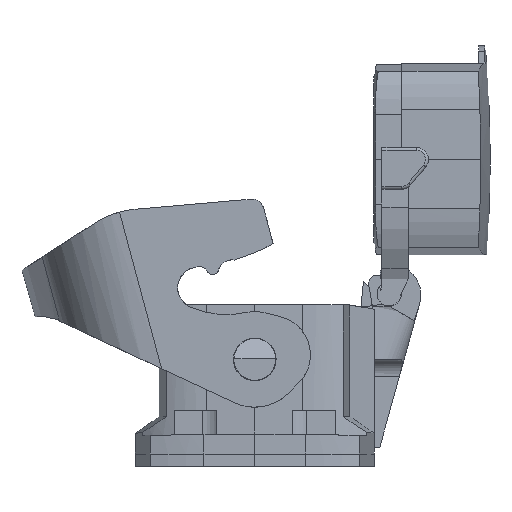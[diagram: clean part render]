
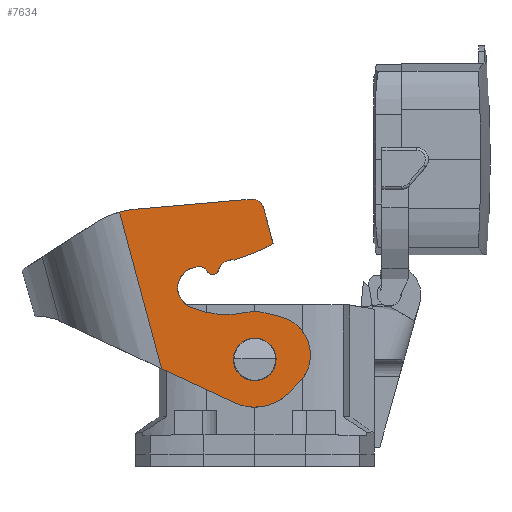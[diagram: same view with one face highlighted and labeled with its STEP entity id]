
A CAD part, left-side view. The second image highlights one B-rep face of the part: STEP entity #7634.
In plain terms, the highlighted planar face has unit normal (-1, 0.008, -0.002).
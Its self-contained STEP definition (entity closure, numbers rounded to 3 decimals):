
#5936=ELLIPSE('',#26317,6.588,6.588);
#5945=ELLIPSE('',#26334,8.,8.);
#5955=ELLIPSE('',#26360,8.,8.);
#5956=ELLIPSE('',#26361,15.001,15.);
#5957=ELLIPSE('',#26362,3.5,3.5);
#5958=ELLIPSE('',#26363,1.5,1.5);
#5959=ELLIPSE('',#26364,1.,1.);
#5960=ELLIPSE('',#26365,2.3,2.3);
#5961=ELLIPSE('',#26366,15.001,15.);
#5962=ELLIPSE('',#26367,2.,2.);
#5963=ELLIPSE('',#26368,15.001,15.);
#5964=ELLIPSE('',#26369,3.575,3.575);
#6130=FACE_BOUND('',#9793,.T.);
#6131=FACE_BOUND('',#9794,.T.);
#6738=PLANE('',#26370);
#7634=ADVANCED_FACE('',(#6130,#6131),#6738,.T.);
#9793=EDGE_LOOP('',(#18597,#18598,#18599,#18600,#18601,#18602,#18603,#18604,
#18605,#18606,#18607,#18608,#18609,#18610,#18611,#18612,#18613,#18614,#18615));
#9794=EDGE_LOOP('',(#18616));
#11643=LINE('',#37950,#13538);
#11646=LINE('',#37985,#13541);
#11647=LINE('',#37987,#13542);
#11648=LINE('',#37988,#13543);
#11649=LINE('',#37996,#13544);
#11650=LINE('',#38004,#13545);
#11651=LINE('',#38008,#13546);
#11652=LINE('',#38012,#13547);
#13538=VECTOR('',#30919,1.);
#13541=VECTOR('',#30926,1.);
#13542=VECTOR('',#30927,1.);
#13543=VECTOR('',#30928,1.);
#13544=VECTOR('',#30935,1.);
#13545=VECTOR('',#30942,1.);
#13546=VECTOR('',#30945,1.);
#13547=VECTOR('',#30948,1.);
#18597=ORIENTED_EDGE('',*,*,#23385,.T.);
#18598=ORIENTED_EDGE('',*,*,#23379,.F.);
#18599=ORIENTED_EDGE('',*,*,#23324,.F.);
#18600=ORIENTED_EDGE('',*,*,#23386,.T.);
#18601=ORIENTED_EDGE('',*,*,#23285,.T.);
#18602=ORIENTED_EDGE('',*,*,#23387,.T.);
#18603=ORIENTED_EDGE('',*,*,#23388,.F.);
#18604=ORIENTED_EDGE('',*,*,#23389,.F.);
#18605=ORIENTED_EDGE('',*,*,#23390,.F.);
#18606=ORIENTED_EDGE('',*,*,#23391,.F.);
#18607=ORIENTED_EDGE('',*,*,#23392,.F.);
#18608=ORIENTED_EDGE('',*,*,#23393,.F.);
#18609=ORIENTED_EDGE('',*,*,#23394,.F.);
#18610=ORIENTED_EDGE('',*,*,#23395,.F.);
#18611=ORIENTED_EDGE('',*,*,#23396,.F.);
#18612=ORIENTED_EDGE('',*,*,#23397,.F.);
#18613=ORIENTED_EDGE('',*,*,#23398,.T.);
#18614=ORIENTED_EDGE('',*,*,#23399,.T.);
#18615=ORIENTED_EDGE('',*,*,#23400,.F.);
#18616=ORIENTED_EDGE('',*,*,#23401,.F.);
#20739=VERTEX_POINT('',#37672);
#20746=VERTEX_POINT('',#37685);
#20779=VERTEX_POINT('',#37765);
#20783=VERTEX_POINT('',#37778);
#20818=VERTEX_POINT('',#37935);
#20828=VERTEX_POINT('',#37986);
#20829=VERTEX_POINT('',#37989);
#20830=VERTEX_POINT('',#37991);
#20831=VERTEX_POINT('',#37993);
#20832=VERTEX_POINT('',#37995);
#20833=VERTEX_POINT('',#37997);
#20834=VERTEX_POINT('',#37999);
#20835=VERTEX_POINT('',#38001);
#20836=VERTEX_POINT('',#38003);
#20837=VERTEX_POINT('',#38005);
#20838=VERTEX_POINT('',#38007);
#20839=VERTEX_POINT('',#38009);
#20840=VERTEX_POINT('',#38011);
#20841=VERTEX_POINT('',#38013);
#20842=VERTEX_POINT('',#38016);
#23285=EDGE_CURVE('',#20739,#20746,#5936,.T.);
#23324=EDGE_CURVE('',#20783,#20779,#5945,.T.);
#23379=EDGE_CURVE('',#20779,#20818,#11643,.T.);
#23385=EDGE_CURVE('',#20828,#20818,#11646,.T.);
#23386=EDGE_CURVE('',#20783,#20739,#11647,.T.);
#23387=EDGE_CURVE('',#20746,#20829,#11648,.T.);
#23388=EDGE_CURVE('',#20830,#20829,#5955,.T.);
#23389=EDGE_CURVE('',#20831,#20830,#5956,.T.);
#23390=EDGE_CURVE('',#20832,#20831,#5957,.T.);
#23391=EDGE_CURVE('',#20833,#20832,#11649,.T.);
#23392=EDGE_CURVE('',#20834,#20833,#5958,.T.);
#23393=EDGE_CURVE('',#20835,#20834,#5959,.T.);
#23394=EDGE_CURVE('',#20836,#20835,#5960,.T.);
#23395=EDGE_CURVE('',#20837,#20836,#11650,.T.);
#23396=EDGE_CURVE('',#20838,#20837,#5961,.T.);
#23397=EDGE_CURVE('',#20839,#20838,#11651,.T.);
#23398=EDGE_CURVE('',#20839,#20840,#5962,.T.);
#23399=EDGE_CURVE('',#20840,#20841,#11652,.T.);
#23400=EDGE_CURVE('',#20828,#20841,#5963,.T.);
#23401=EDGE_CURVE('',#20842,#20842,#5964,.T.);
#26317=AXIS2_PLACEMENT_3D('',#37686,#30783,#30784);
#26334=AXIS2_PLACEMENT_3D('',#37779,#30841,#30842);
#26360=AXIS2_PLACEMENT_3D('',#37990,#30929,#30930);
#26361=AXIS2_PLACEMENT_3D('',#37992,#30931,#30932);
#26362=AXIS2_PLACEMENT_3D('',#37994,#30933,#30934);
#26363=AXIS2_PLACEMENT_3D('',#37998,#30936,#30937);
#26364=AXIS2_PLACEMENT_3D('',#38000,#30938,#30939);
#26365=AXIS2_PLACEMENT_3D('',#38002,#30940,#30941);
#26366=AXIS2_PLACEMENT_3D('',#38006,#30943,#30944);
#26367=AXIS2_PLACEMENT_3D('',#38010,#30946,#30947);
#26368=AXIS2_PLACEMENT_3D('',#38014,#30949,#30950);
#26369=AXIS2_PLACEMENT_3D('',#38015,#30951,#30952);
#26370=AXIS2_PLACEMENT_3D('',#38017,#30953,#30954);
#30783=DIRECTION('',(-1.,0.008,-0.002));
#30784=DIRECTION('',(0.009,0.966,-0.259));
#30841=DIRECTION('',(1.,-0.008,0.002));
#30842=DIRECTION('',(0.009,0.966,-0.259));
#30919=DIRECTION('',(0.007,0.906,0.423));
#30926=DIRECTION('',(0.,-0.259,-0.966));
#30927=DIRECTION('',(-0.008,-0.707,0.707));
#30928=DIRECTION('',(0.008,0.966,0.259));
#30929=DIRECTION('',(1.,-0.008,0.002));
#30930=DIRECTION('',(0.009,0.966,-0.259));
#30931=DIRECTION('',(-1.,0.008,-0.002));
#30932=DIRECTION('',(0.009,0.966,-0.259));
#30933=DIRECTION('',(-1.,0.008,-0.002));
#30934=DIRECTION('',(0.009,0.966,-0.259));
#30935=DIRECTION('',(0.009,0.966,-0.259));
#30936=DIRECTION('',(-1.,0.008,-0.002));
#30937=DIRECTION('',(0.009,0.966,-0.259));
#30938=DIRECTION('',(1.,-0.008,0.002));
#30939=DIRECTION('',(0.009,0.966,-0.259));
#30940=DIRECTION('',(-1.,0.008,-0.002));
#30941=DIRECTION('',(0.009,0.966,-0.259));
#30942=DIRECTION('',(0.009,0.94,-0.342));
#30943=DIRECTION('',(1.,-0.008,0.002));
#30944=DIRECTION('',(0.009,0.966,-0.259));
#30945=DIRECTION('',(0.,-0.259,-0.966));
#30946=DIRECTION('',(-1.,0.008,-0.002));
#30947=DIRECTION('',(0.009,0.966,-0.259));
#30948=DIRECTION('',(0.009,0.996,-0.087));
#30949=DIRECTION('',(1.,-0.008,0.002));
#30950=DIRECTION('',(0.009,0.966,-0.259));
#30951=DIRECTION('',(-1.,0.008,-0.002));
#30952=DIRECTION('',(0.009,0.966,-0.259));
#30953=DIRECTION('',(-1.,0.008,-0.002));
#30954=DIRECTION('',(-0.009,-0.966,0.259));
#37672=CARTESIAN_POINT('',(-45.703,-7.387,-4.127));
#37685=CARTESIAN_POINT('',(-45.703,-4.434,6.894));
#37686=CARTESIAN_POINT('',(-45.675,-2.729,0.531));
#37765=CARTESIAN_POINT('',(-45.605,3.381,-7.45));
#37778=CARTESIAN_POINT('',(-45.685,-5.657,-5.857));
#37779=CARTESIAN_POINT('',(-45.65,0.,-0.2));
#37935=CARTESIAN_POINT('',(-45.515,15.611,-1.748));
#37950=CARTESIAN_POINT('',(-45.605,3.38,-7.451));
#37985=CARTESIAN_POINT('',(-45.515,26.599,39.26));
#37986=CARTESIAN_POINT('',(-45.515,22.639,24.48));
#37987=CARTESIAN_POINT('',(-45.703,-7.387,-4.127));
#37988=CARTESIAN_POINT('',(-45.685,-2.071,7.527));
#37989=CARTESIAN_POINT('',(-45.685,-2.071,7.527));
#37990=CARTESIAN_POINT('',(-45.65,0.,-0.2));
#37991=CARTESIAN_POINT('',(-45.654,1.665,7.625));
#37992=CARTESIAN_POINT('',(-45.66,4.788,22.296));
#37993=CARTESIAN_POINT('',(-45.579,10.829,8.566));
#37994=CARTESIAN_POINT('',(-45.598,9.419,11.77));
#37995=CARTESIAN_POINT('',(-45.598,10.325,15.151));
#37996=CARTESIAN_POINT('',(-45.604,9.668,15.327));
#37997=CARTESIAN_POINT('',(-45.604,9.67,15.326));
#37998=CARTESIAN_POINT('',(-45.604,9.281,13.877));
#37999=CARTESIAN_POINT('',(-45.616,7.939,14.548));
#38000=CARTESIAN_POINT('',(-45.625,7.045,14.994));
#38001=CARTESIAN_POINT('',(-45.633,6.077,14.744));
#38002=CARTESIAN_POINT('',(-45.65,3.85,14.168));
#38003=CARTESIAN_POINT('',(-45.658,3.466,16.436));
#38004=CARTESIAN_POINT('',(-45.775,-9.167,21.034));
#38005=CARTESIAN_POINT('',(-45.69,0.087,17.666));
#38006=CARTESIAN_POINT('',(-45.678,5.217,31.761));
#38007=CARTESIAN_POINT('',(-45.72,-3.069,19.257));
#38008=CARTESIAN_POINT('',(-45.72,-1.484,25.17));
#38009=CARTESIAN_POINT('',(-45.72,-1.484,25.17));
#38010=CARTESIAN_POINT('',(-45.702,0.448,24.653));
#38011=CARTESIAN_POINT('',(-45.705,0.622,26.645));
#38012=CARTESIAN_POINT('',(-45.538,20.008,24.949));
#38013=CARTESIAN_POINT('',(-45.538,20.01,24.949));
#38014=CARTESIAN_POINT('',(-45.515,18.703,10.006));
#38015=CARTESIAN_POINT('',(-45.65,0.,-0.2));
#38016=CARTESIAN_POINT('',(-45.619,3.453,-1.125));
#38017=CARTESIAN_POINT('',(-45.755,0.056,46.372));
